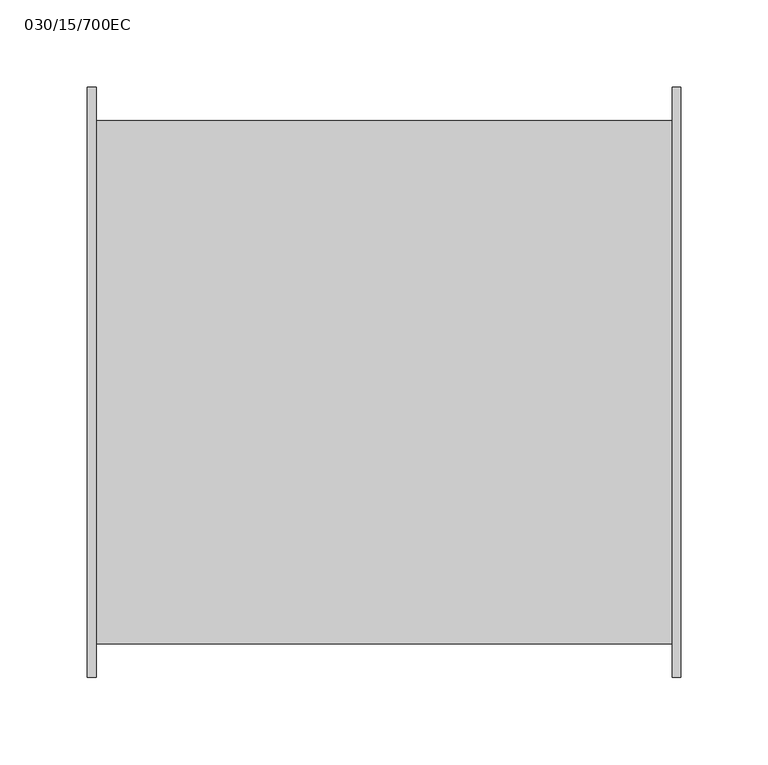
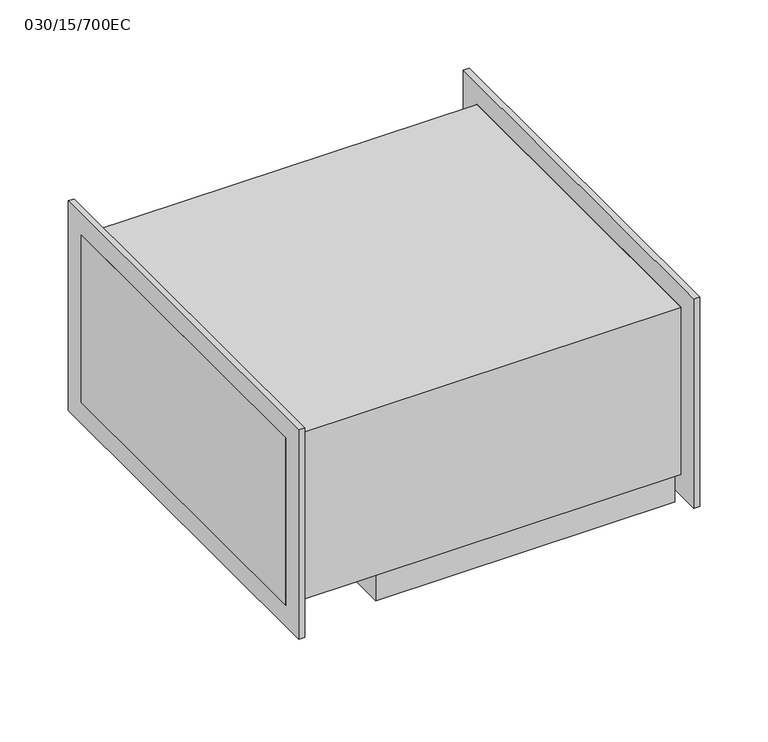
"""IFC4 building model written with IfcOpenShell, lengths in millimetres: unitary equipment geometry, VE-Wentylator-ParaForma-Harmann-DRB_EC-Nawiewny : 030/15/700EC."""

from ifc_helpers import new_model, si_unit, point, frame, frame_2d, origin, place, context, project, spatial, polyline, circle_curve, trimmed, segment, composite_curve, outline, extrude, faceted_brep, source, transform, mapped, element, save
from ifc_brep_helpers import plane_surface, revolved_surface, advanced_brep


def unitary_equipment_030_15_700ec_126bc74f(model_context):
    return source(origin(), model_context, "Body", "SolidModel", [
        faceted_brep([(-92.0, -147.2, -100.2), (-92.0, -147.2, -75.2), (-92.0, 147.2, -75.2), (-92.0, 147.2, -100.2), (161.5, -147.2, -100.2), (161.5, 147.2, -100.2), (161.5, 147.2, -75.2), (161.5, -147.2, -75.2), (-87.0, 142.2, -100.2), (-87.0, -142.2, -100.2), (156.5, -142.2, -100.2), (156.5, 142.2, -100.2), (-87.0, 142.2, -75.2), (-87.0, -142.2, -75.2), (156.5, -142.2, -75.2), (156.5, 142.2, -75.2), (-165.0, -150.0, -75.2), (165.0, -150.0, -75.2), (165.0, -150.0, -75.0), (170.0, -150.0, -75.0), (170.0, -150.0, 75.0), (165.0, -150.0, 75.0), (165.0, -150.0, 74.8), (-165.0, -150.0, 74.8), (-165.0, -150.0, 75.0), (-170.0, -150.0, 75.0), (-170.0, -150.0, -75.0), (-165.0, -150.0, -75.0), (165.0, 150.0, 74.8), (-165.0, 150.0, 74.8), (165.0, 150.0, 75.0), (170.0, 150.0, 75.0), (170.0, 150.0, -75.0), (165.0, 150.0, -75.0), (165.0, 150.0, -75.2), (-165.0, 150.0, -75.2), (-165.0, 150.0, -75.0), (-170.0, 150.0, -75.0), (-170.0, 150.0, 75.0), (-165.0, 150.0, 75.0)], [[[0, 1, 2, 3]], [[4, 5, 6, 7]], [[1, 0, 4, 7]], [[3, 2, 6, 5]], [[0, 3, 5, 4], [8, 9, 10, 11]], [[8, 12, 13, 9]], [[10, 14, 15, 11]], [[9, 13, 14, 10]], [[12, 8, 11, 15]], [[16, 17, 18, 19, 20, 21, 22, 23, 24, 25, 26, 27]], [[23, 22, 28, 29]], [[29, 28, 30, 31, 32, 33, 34, 35, 36, 37, 38, 39]], [[13, 12, 15, 14]], [[16, 35, 34, 17], [2, 1, 7, 6]], [[26, 25, 38, 37]], [[19, 32, 31, 20]], [[35, 16, 27, 36]], [[17, 34, 33, 18]], [[39, 24, 23, 29]], [[38, 25, 24, 39]], [[26, 37, 36, 27]], [[21, 30, 28, 22]], [[30, 21, 20, 31]], [[32, 19, 18, 33]]]),
        extrude(outline(polyline([(-169.2, -94.0), (-169.2, 94.0), (169.2, 94.0), (169.2, -94.0), (-169.2, -94.0)]), holes=[polyline([(-150.0, -75.0), (150.0, -75.0), (150.0, 75.0), (-150.0, 75.0), (-150.0, -75.0)])]), frame((165.0, 0.0, 0.0), z_axis=(1.0, 0.0, 0.0), x_axis=(0.0, 1.0, 0.0)), (0.0, 0.0, 1.0), 5.0),
        extrude(outline(polyline([(-169.2, -94.0), (-169.2, 94.0), (169.2, 94.0), (169.2, -94.0), (-169.2, -94.0)]), holes=[polyline([(-150.0, -75.0), (150.0, -75.0), (150.0, 75.0), (-150.0, 75.0), (-150.0, -75.0)])]), frame((-170.0, 0.0, 0.0), z_axis=(1.0, 0.0, 0.0), x_axis=(0.0, 1.0, 0.0)), (0.0, 0.0, 1.0), 5.0),
        extrude(outline(composite_curve([segment(polyline([(77.5, 27.5), (-22.5, 27.5)]), True, "CONTINUOUS"), segment(trimmed(circle_curve(frame_2d((-22.5, 32.5)), 5.0), [point((-22.5, 27.5))], [point((-27.5, 32.5))], False, "CARTESIAN"), True, "CONTINUOUS"), segment(polyline([(-27.5, 32.5), (-27.5, 117.5)]), True, "CONTINUOUS"), segment(trimmed(circle_curve(frame_2d((-22.5, 117.5)), 5.0), [point((-27.5, 117.5))], [point((-22.5, 122.5))], False, "CARTESIAN"), True, "CONTINUOUS"), segment(polyline([(-22.5, 122.5), (77.5, 122.5)]), True, "CONTINUOUS"), segment(trimmed(circle_curve(frame_2d((77.5, 117.5)), 5.0), [point((77.5, 122.5))], [point((82.5, 117.5))], False, "CARTESIAN"), True, "CONTINUOUS"), segment(polyline([(82.5, 117.5), (82.5, 32.5)]), True, "CONTINUOUS"), segment(trimmed(circle_curve(frame_2d((77.5, 32.5)), 5.0), [point((82.5, 32.5))], [point((77.5, 27.5))], False, "CARTESIAN"), True, "CONTINUOUS")], self_intersect=False)), frame((0.0, 0.0, -124.7), z_axis=(0.0, 0.0, 1.0), x_axis=(1.0, 0.0, 0.0)), (0.0, 0.0, 1.0), 49.5),
        advanced_brep(
        [(27.5, -51.75, -90.2), (27.5, 9.35, -90.2), (27.5, -67.95, -75.2), (27.5, 25.55, -75.2)],
        [
            (0, 1, circle_curve(frame((27.5, -21.2, -90.2), z_axis=(0.0, 0.0, -1.0), x_axis=(0.0, -1.0, 0.0)), 30.55)),
            (1, 0, circle_curve(frame((27.5, -21.2, -90.2), z_axis=(0.0, 0.0, -1.0), x_axis=(0.0, 1.0, 0.0)), 30.55)),
            (2, 3, circle_curve(frame((27.5, -21.2, -75.2), z_axis=(0.0, 0.0, 1.0), x_axis=(0.0, 1.0, 0.0)), 46.75)),
            (3, 2, circle_curve(frame((27.5, -21.2, -75.2), z_axis=(0.0, 0.0, 1.0), x_axis=(0.0, -1.0, 0.0)), 46.75)),
            (3, 1),
            (0, 2),
        ],
        [
            plane_surface(frame((27.5, -21.2, -90.2), z_axis=(0.0, 0.0, -1.0), x_axis=(-1.0, 0.0, 0.0))),
            plane_surface(frame((27.5, -21.2, -75.2), z_axis=(0.0, 0.0, 1.0), x_axis=(-1.0, 0.0, 0.0))),
            revolved_surface(polyline([(27.5, -51.74999998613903, -90.2), (27.5, -67.95, -75.2)]), (27.5, -21.2, -118.487037), (0.0, 0.0, 1.0)),
            revolved_surface(polyline([(27.5, 9.349999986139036, -90.2), (27.5, 25.55, -75.2)]), (27.5, -21.2, -118.487037), (0.0, 0.0, 1.0)),
        ],
        [
            (0, [[1, 2]]),
            (1, [[3, 4]]),
            (2, [[-4, 5, -1, 6]]),
            (3, [[-3, -6, -2, -5]]),
        ],
    ),
    ])


if __name__ == "__main__":
    model = new_model("IFC4")
    model_context = context("Model", 3, world=origin())
    ifc_project = project(units=[si_unit("LENGTHUNIT", "METRE", prefix="MILLI")], contexts=[model_context])
    site = spatial("IfcSite", under=ifc_project)
    building = spatial("IfcBuilding", under=site)
    placement = place(None, origin())
    unitary_equipment_030_15_700ec_shape = unitary_equipment_030_15_700ec_126bc74f(model_context)
    element("IfcUnitaryEquipment", 1, ObjectType="VE-Wentylator-ParaForma-Harmann-DRB_EC-Nawiewny : 030/15/700EC", at=placement, inside=building, context=model_context, shape_type="MappedRepresentation", body=[
        mapped(unitary_equipment_030_15_700ec_shape, transform((0.0, 0.0, 0.0), x_axis=(1.0, 0.0, 0.0), y_axis=(0.0, 1.0, 0.0), z_axis=(0.0, 0.0, 1.0))),
    ])
    save(model, "model.ifc")
